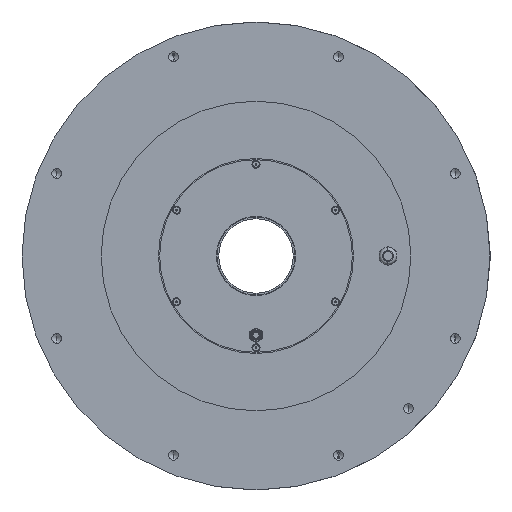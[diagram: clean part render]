
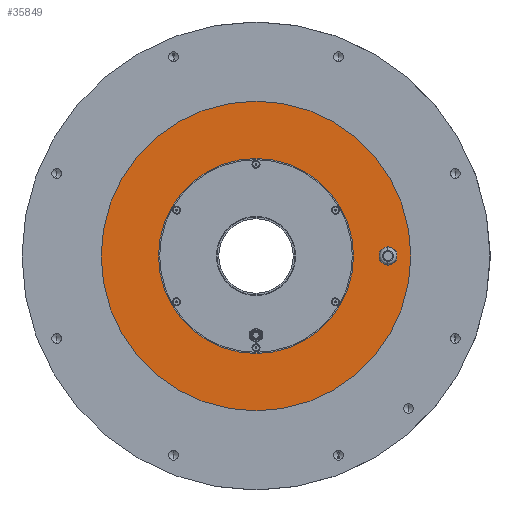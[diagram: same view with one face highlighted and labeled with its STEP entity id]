
A CAD part, front view. The second image highlights one B-rep face of the part: STEP entity #35849.
In plain terms, the highlighted planar face has unit normal (0, -1, 0).
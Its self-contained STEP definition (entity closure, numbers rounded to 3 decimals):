
#607 = ORIENTED_EDGE ( 'NONE', *, *, #25189, .T. ) ;
#698 = AXIS2_PLACEMENT_3D ( 'NONE', #28622, #34227, #11321 ) ;
#992 = EDGE_LOOP ( 'NONE', ( #607, #35211 ) ) ;
#1682 = VERTEX_POINT ( 'NONE', #14807 ) ;
#3770 = VERTEX_POINT ( 'NONE', #30846 ) ;
#3972 = PLANE ( 'NONE',  #33056 ) ;
#4005 = CIRCLE ( 'NONE', #18265, 7.25 ) ;
#4157 = DIRECTION ( 'NONE',  ( 0., 0., -1. ) ) ;
#4172 = CARTESIAN_POINT ( 'NONE',  ( 0., 0., 0. ) ) ;
#4314 = FACE_OUTER_BOUND ( 'NONE', #992, .T. ) ;
#5190 = ORIENTED_EDGE ( 'NONE', *, *, #5344, .F. ) ;
#5344 = EDGE_CURVE ( 'NONE', #1682, #19298, #13319, .T. ) ;
#6259 = ORIENTED_EDGE ( 'NONE', *, *, #19209, .T. ) ;
#6691 = CARTESIAN_POINT ( 'NONE',  ( 115., 0., -7.25 ) ) ;
#6753 = DIRECTION ( 'NONE',  ( 0., -1., 0. ) ) ;
#6937 = FACE_BOUND ( 'NONE', #28066, .T. ) ;
#8716 = CIRCLE ( 'NONE', #24212, 7.25 ) ;
#9872 = DIRECTION ( 'NONE',  ( 0., 0., 1. ) ) ;
#9914 = CARTESIAN_POINT ( 'NONE',  ( 85., 0., 0. ) ) ;
#9941 = EDGE_CURVE ( 'NONE', #3770, #30765, #34296, .T. ) ;
#10054 = CARTESIAN_POINT ( 'NONE',  ( 115., 0., 0. ) ) ;
#11321 = DIRECTION ( 'NONE',  ( 0., 0., -1. ) ) ;
#13319 = CIRCLE ( 'NONE', #32927, 85. ) ;
#13883 = CIRCLE ( 'NONE', #30502, 135. ) ;
#13892 = VERTEX_POINT ( 'NONE', #36798 ) ;
#14807 = CARTESIAN_POINT ( 'NONE',  ( 0., 0., 85. ) ) ;
#15040 = DIRECTION ( 'NONE',  ( 0., 0., -1. ) ) ;
#16505 = EDGE_CURVE ( 'NONE', #13892, #35236, #4005, .T. ) ;
#18265 = AXIS2_PLACEMENT_3D ( 'NONE', #18659, #23730, #35252 ) ;
#18437 = CARTESIAN_POINT ( 'NONE',  ( 0., 0., -85. ) ) ;
#18659 = CARTESIAN_POINT ( 'NONE',  ( 115., 0., 0. ) ) ;
#19209 = EDGE_CURVE ( 'NONE', #35236, #13892, #8716, .T. ) ;
#19298 = VERTEX_POINT ( 'NONE', #18437 ) ;
#20426 = DIRECTION ( 'NONE',  ( 0., -1., 0. ) ) ;
#21420 = DIRECTION ( 'NONE',  ( 0., 1., 0. ) ) ;
#21480 = DIRECTION ( 'NONE',  ( 0., -1., 0. ) ) ;
#21812 = DIRECTION ( 'NONE',  ( 0., 0., -1. ) ) ;
#22528 = CARTESIAN_POINT ( 'NONE',  ( 0., 0., -135. ) ) ;
#23730 = DIRECTION ( 'NONE',  ( 0., 1., 0. ) ) ;
#24212 = AXIS2_PLACEMENT_3D ( 'NONE', #10054, #21420, #9872 ) ;
#24439 = DIRECTION ( 'NONE',  ( 0., -1., 0. ) ) ;
#24633 = DIRECTION ( 'NONE',  ( 0., 0., -1. ) ) ;
#24761 = EDGE_LOOP ( 'NONE', ( #27711, #5190 ) ) ;
#25189 = EDGE_CURVE ( 'NONE', #30765, #3770, #13883, .T. ) ;
#26859 = CARTESIAN_POINT ( 'NONE',  ( 0., 0., 0. ) ) ;
#27711 = ORIENTED_EDGE ( 'NONE', *, *, #29795, .F. ) ;
#27751 = AXIS2_PLACEMENT_3D ( 'NONE', #4172, #21480, #24633 ) ;
#28066 = EDGE_LOOP ( 'NONE', ( #34207, #6259 ) ) ;
#28622 = CARTESIAN_POINT ( 'NONE',  ( 0., 0., 0. ) ) ;
#29795 = EDGE_CURVE ( 'NONE', #19298, #1682, #32812, .T. ) ;
#29982 = FACE_BOUND ( 'NONE', #24761, .T. ) ;
#30502 = AXIS2_PLACEMENT_3D ( 'NONE', #34402, #20426, #15040 ) ;
#30765 = VERTEX_POINT ( 'NONE', #22528 ) ;
#30846 = CARTESIAN_POINT ( 'NONE',  ( 0., 0., 135. ) ) ;
#32812 = CIRCLE ( 'NONE', #698, 85. ) ;
#32927 = AXIS2_PLACEMENT_3D ( 'NONE', #26859, #6753, #4157 ) ;
#33056 = AXIS2_PLACEMENT_3D ( 'NONE', #9914, #24439, #21812 ) ;
#34207 = ORIENTED_EDGE ( 'NONE', *, *, #16505, .T. ) ;
#34227 = DIRECTION ( 'NONE',  ( 0., -1., 0. ) ) ;
#34296 = CIRCLE ( 'NONE', #27751, 135. ) ;
#34402 = CARTESIAN_POINT ( 'NONE',  ( 0., 0., 0. ) ) ;
#35211 = ORIENTED_EDGE ( 'NONE', *, *, #9941, .T. ) ;
#35236 = VERTEX_POINT ( 'NONE', #6691 ) ;
#35252 = DIRECTION ( 'NONE',  ( 0., 0., 1. ) ) ;
#35849 = ADVANCED_FACE ( 'NONE', ( #6937, #4314, #29982 ), #3972, .T. ) ;
#36798 = CARTESIAN_POINT ( 'NONE',  ( 115., 0., 7.25 ) ) ;
